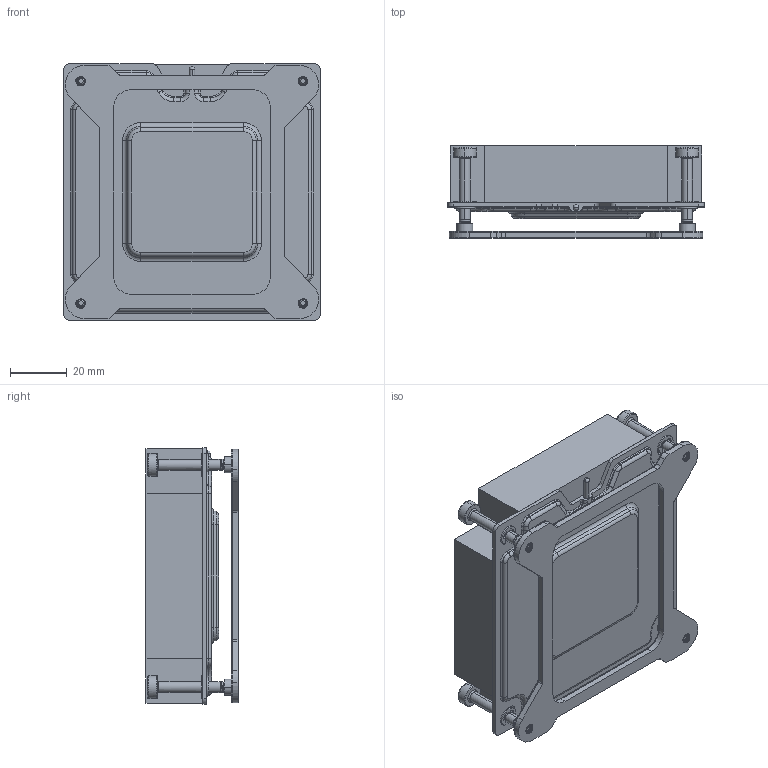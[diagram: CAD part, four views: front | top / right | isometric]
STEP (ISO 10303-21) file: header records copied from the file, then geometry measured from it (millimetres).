
FILE_DESCRIPTION((''),'2;1');
FILE_NAME('RGD3128VC-P-002_ME_ASM','2022-10-11T',('User'),(''),'PRO/ENGINEER BY PARAMETRIC TECHNOLOGY CORPORATION, 2017170','PRO/ENGINEER BY PARAMETRIC TECHNOLOGY CORPORATION, 2017170','');
FILE_SCHEMA(('CONFIG_CONTROL_DESIGN'));
Products named in the file (11): VC_1_1; SCREW_1_1; NETW3_1_1; O_RING_1_1; SCREW_ASSY_ASM_1_ASM; 850-BP-1700_1_1; ADHESIVE_1_1; MYLAR_1_1; 850-BP1700_ASM_1_ASM; RGD3128VC-P-002_ASM_1_ASM; RGD3128VC-P-002_ME_ASM
Assembly tree (13 placements, depth 4):
  RGD3128VC-P-002_ME_ASM
    RGD3128VC-P-002_ASM_1_ASM
      VC_1_1
      SCREW_ASSY_ASM_1_ASM  x4
        SCREW_1_1
        NETW3_1_1
        O_RING_1_1
      850-BP1700_ASM_1_ASM
        850-BP-1700_1_1
        ADHESIVE_1_1
        MYLAR_1_1
Bounding box: 90 x 32.3 x 90 mm (x, y, z)
Volume: 176098.3 mm3; surface area: 41704.6 mm2
Topology: 16 solids, 16 shells, 1219 faces, 3240 edges, 2013 vertices
Faces by surface type: cylinder 636, plane 319, torus 84, sphere 74, bspline 56, cone 46, extrusion 4
Entity records: 44358 total; most frequent: CARTESIAN_POINT 27091, ORIENTED_EDGE 3644, DIRECTION 3537, EDGE_CURVE 1822, AXIS2_PLACEMENT_3D 1340, VERTEX_POINT 1173, VECTOR 857, LINE 856
